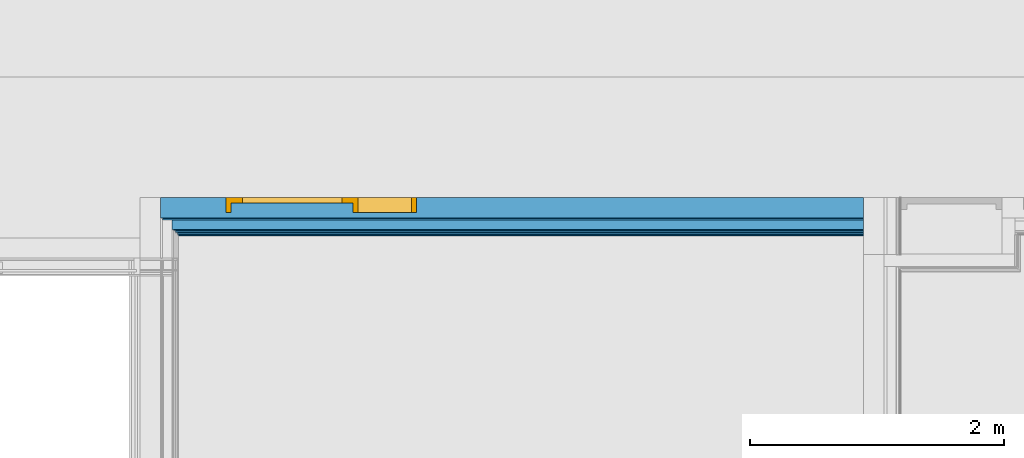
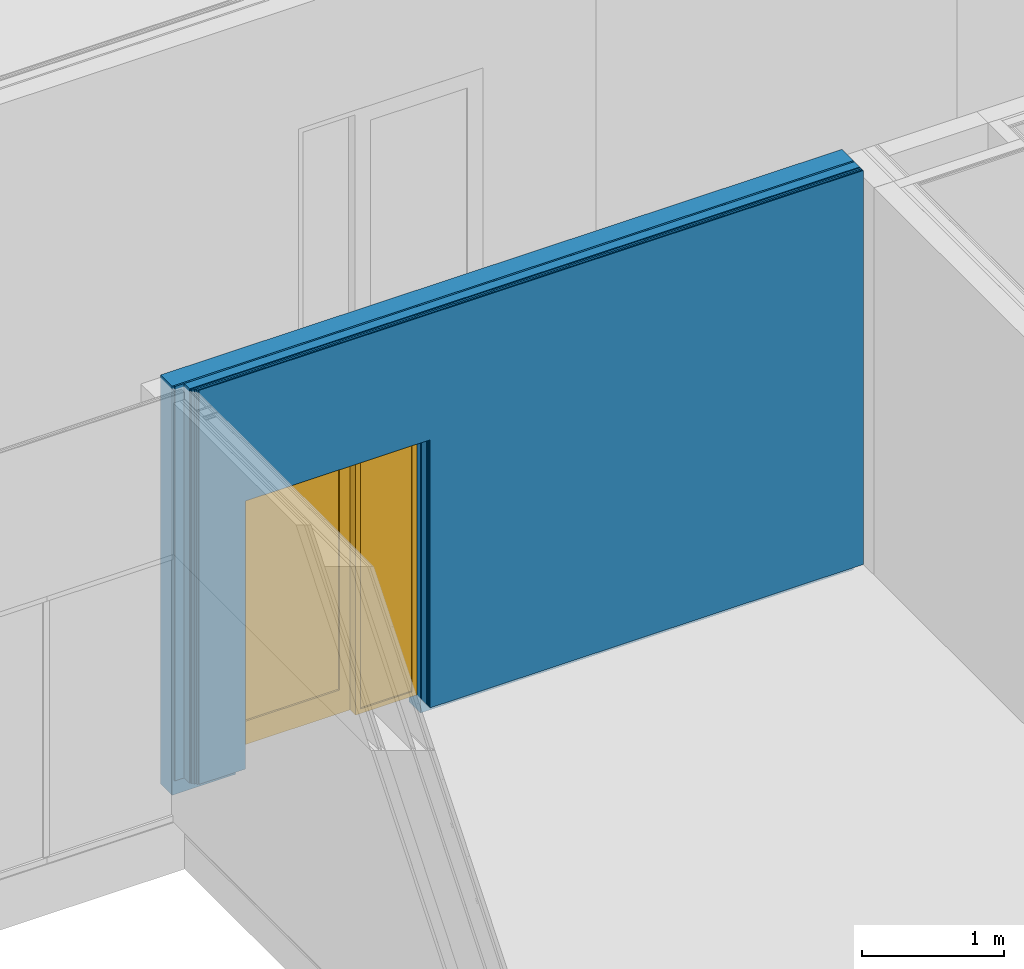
# One storey, part 23 of 139: 7 building element parts, 1 door, 1 opening, 1 element without a shape of its own.
"""IFC2X3 building model written with IfcOpenShell, lengths in millimetres."""

from ifc_helpers import new_model, entity, si_unit, converted_unit, derived_unit, money_unit, direction, frame, origin_with_axes, place, context, subcontext, project, spatial, open_shell, faceted_brep, surface_model, source, transform, mapped, material, type_object, element, fill, aggregate, save


model = new_model("IFC2X3")

# Units and contexts
model_context = context("Model", 3, precision=0.01, world=origin_with_axes(), true_north=direction((0.0, 1.0)))
body_context = subcontext(model_context, "Body", "Model", "MODEL_VIEW")
ifc_project = project(units=[si_unit("LENGTHUNIT", "METRE", prefix="MILLI"), si_unit("AREAUNIT", "SQUARE_METRE"), si_unit("VOLUMEUNIT", "CUBIC_METRE"), converted_unit("PLANEANGLEUNIT", "DEGREE", entity("IfcPlaneAngleMeasure", 0.0174532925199), si_unit("PLANEANGLEUNIT", "RADIAN"), dimensions=[0, 0, 0, 0, 0, 0, 0]), money_unit("EUR"), converted_unit("TIMEUNIT", "Year", entity("IfcTimeMeasure", 31556926.0), si_unit("TIMEUNIT", "SECOND"), dimensions=[0, 0, 1, 0, 0, 0, 0]), si_unit("MASSUNIT", "GRAM", prefix="KILO"), si_unit("THERMODYNAMICTEMPERATUREUNIT", "DEGREE_CELSIUS"), si_unit("LUMINOUSINTENSITYUNIT", "LUMEN"), si_unit("ENERGYUNIT", "JOULE", prefix="MEGA"), derived_unit("THERMALCONDUCTANCEUNIT", [(si_unit("POWERUNIT", "WATT"), 1), (si_unit("LENGTHUNIT", "METRE"), -1), (si_unit("THERMODYNAMICTEMPERATUREUNIT", "KELVIN"), -1)]), derived_unit("SPECIFICHEATCAPACITYUNIT", [(si_unit("ENERGYUNIT", "JOULE"), 1), (si_unit("MASSUNIT", "GRAM", prefix="KILO"), -1), (si_unit("THERMODYNAMICTEMPERATUREUNIT", "KELVIN"), -1)]), derived_unit("MASSDENSITYUNIT", [(si_unit("MASSUNIT", "GRAM", prefix="KILO"), 1), (si_unit("VOLUMEUNIT", "CUBIC_METRE"), -1)])], contexts=[model_context])

# Site, building, storey
site_placement = place(None, origin_with_axes())
site = spatial("IfcSite", under=ifc_project, at=site_placement, Name="Kolde pst 67a", CompositionType="ELEMENT")
building_placement = place(site_placement, origin_with_axes())
building = spatial("IfcBuilding", under=site, at=building_placement, Name="Riigigümnaasium", CompositionType="ELEMENT")
storey_placement = place(building_placement, frame((0.0, 0.0, 4600.0), z_axis=(0.0, 0.0, 1.0), x_axis=(1.0, 0.0, 0.0)))
storey = spatial("IfcBuildingStorey", under=building, at=storey_placement, Name="2. korrus", CompositionType="ELEMENT", Elevation=4600.0)

# Door
door_style = type_object("IfcDoorStyle", Name="Door with Sidelight on Side 2 25", ConstructionType="NOTDEFINED", OperationType="SINGLE_SWING_LEFT", ParameterTakesPrecedence=False, Sizeable=False)
shared_shape = source(origin_with_axes(), body_context, "Body", "SurfaceModel", [
    faceted_brep([(750.0, 0.0, 0.0), (750.0, -115.0, 0.0), (710.0, -115.0, 0.0), (710.0, 0.0, 0.0), (750.0, 0.0, 2260.0), (750.0, -115.0, 2260.0), (710.0, -115.0, 2260.0), (710.0, -115.0, 40.0), (710.0, 0.0, 40.0), (710.0, 0.0, 2260.0)], [[[0, 1, 2, 3]], [[4, 5, 1, 0]], [[1, 5, 6, 7, 2]], [[3, 2, 7, 8]], [[0, 3, 8, 9, 4]], [[9, 6, 5, 4]], [[8, 7, 6, 9]]]),
    faceted_brep([(250.0, -40.0, 0.0), (250.0, -115.0, 0.0), (250.0, -115.0, 2260.0), (250.0, -40.0, 2260.0), (262.0, -40.0, 0.0), (262.0, 0.0, 0.0), (290.0, 0.0, 0.0), (290.0, -115.0, 0.0), (290.0, -115.0, 40.0), (290.0, -115.0, 2260.0), (262.0, -40.0, 2260.0), (290.0, 0.0, 2260.0), (262.0, 0.0, 2260.0), (290.0, 0.0, 40.0)], [[[0, 1, 2, 3]], [[4, 5, 6, 7, 1, 0]], [[7, 8, 9, 2, 1]], [[10, 3, 2, 9, 11, 12]], [[10, 4, 0, 3]], [[12, 5, 4, 10]], [[12, 11, 13, 6, 5]], [[6, 13, 8, 7]], [[13, 11, 9, 8]]]),
    faceted_brep([(710.0, 0.0, 40.0), (710.0, -115.0, 40.0), (710.0, -115.0, 0.0), (710.0, 0.0, 0.0), (290.0, 0.0, 40.0), (290.0, -115.0, 40.0), (290.0, -115.0, 0.0), (290.0, 0.0, 0.0)], [[[0, 1, 2, 3]], [[4, 5, 1, 0]], [[1, 5, 6, 2]], [[3, 2, 6, 7]], [[0, 3, 7, 4]], [[7, 6, 5, 4]]]),
    faceted_brep([(-722.0, -40.0, 2260.0), (-722.0, 0.0, 2260.0), (-750.0, 0.0, 2260.0), (-750.0, -115.0, 2260.0), (-710.0, -115.0, 2260.0), (-710.0, -40.0, 2260.0), (-722.0, -40.0, 0.0), (-722.0, 0.0, 0.0), (-750.0, 0.0, 0.0), (-750.0, -115.0, 0.0), (-710.0, -115.0, 0.0), (-710.0, -40.0, 0.0)], [[[0, 1, 2, 3, 4, 5]], [[0, 6, 7, 1]], [[7, 8, 2, 1]], [[2, 8, 9, 3]], [[3, 9, 10, 4]], [[5, 4, 10, 11]], [[5, 11, 6, 0]], [[6, 11, 10, 9, 8, 7]]]),
    faceted_brep([(262.0, 0.0, 2272.0), (-722.0, 0.0, 2272.0), (-722.0, 0.0, 2260.0), (-750.0, 0.0, 2260.0), (-750.0, 0.0, 2300.0), (750.0, 0.0, 2300.0), (750.0, 0.0, 2260.0), (710.0, 0.0, 2260.0), (290.0, 0.0, 2260.0), (262.0, 0.0, 2260.0), (262.0, -40.0, 2272.0), (-722.0, -40.0, 2272.0), (-722.0, -40.0, 2260.0), (-710.0, -40.0, 2260.0), (-710.0, -115.0, 2260.0), (-750.0, -115.0, 2260.0), (-750.0, -115.0, 2300.0), (750.0, -115.0, 2300.0), (750.0, -115.0, 2260.0), (710.0, -115.0, 2260.0), (290.0, -115.0, 2260.0), (262.0, -40.0, 2260.0), (250.0, -115.0, 2260.0)], [[[0, 1, 2, 3, 4, 5, 6, 7, 8, 9]], [[0, 10, 11, 1]], [[1, 11, 12, 2]], [[12, 13, 14, 15, 3, 2]], [[4, 3, 15, 16]], [[5, 4, 16, 17]], [[6, 5, 17, 18]], [[7, 6, 18, 19]], [[8, 7, 19, 20]], [[21, 9, 8, 20, 22, 14, 13]], [[9, 21, 10, 0]], [[12, 11, 10, 21, 13]], [[14, 22, 20, 19, 18, 17, 16, 15]]]),
    faceted_brep([(-722.0, 0.0, 200.0), (-622.0, 0.0, 200.0), (-622.0, -40.0, 200.0), (-722.0, -40.0, 200.0), (-722.0, 0.0, 2172.0), (-622.0, 0.0, 2172.0), (-622.0, -40.0, 2172.0), (-722.0, -40.0, 2172.0)], [[[0, 1, 2, 3]], [[0, 4, 5, 1]], [[1, 5, 6, 2]], [[3, 2, 6, 7]], [[4, 0, 3, 7]], [[5, 4, 7, 6]]]),
    faceted_brep([(262.0, 0.0, 200.0), (262.0, 0.0, 2172.0), (262.0, -40.0, 2172.0), (262.0, -40.0, 200.0), (162.0, 0.0, 200.0), (162.0, 0.0, 2172.0), (162.0, -40.0, 2172.0), (162.0, -40.0, 200.0)], [[[0, 1, 2, 3]], [[0, 4, 5, 1]], [[1, 5, 6, 2]], [[3, 2, 6, 7]], [[4, 0, 3, 7]], [[5, 4, 7, 6]]]),
    faceted_brep([(-722.0, 0.0, 0.0), (262.0, 0.0, 0.0), (262.0, -40.0, 0.0), (-722.0, -40.0, 0.0), (-722.0, 0.0, 200.0), (-622.0, 0.0, 200.0), (162.0, 0.0, 200.0), (262.0, 0.0, 200.0), (262.0, -40.0, 200.0), (162.0, -40.0, 200.0), (-622.0, -40.0, 200.0), (-722.0, -40.0, 200.0)], [[[0, 1, 2, 3]], [[0, 4, 5, 6, 7, 1]], [[1, 7, 8, 2]], [[3, 2, 8, 9, 10, 11]], [[4, 0, 3, 11]], [[5, 4, 11, 10]], [[6, 5, 10, 9]], [[7, 6, 9, 8]]]),
    faceted_brep([(-722.0, 0.0, 2272.0), (-722.0, 0.0, 2172.0), (-722.0, -40.0, 2172.0), (-722.0, -40.0, 2272.0), (262.0, 0.0, 2272.0), (262.0, 0.0, 2172.0), (162.0, 0.0, 2172.0), (-622.0, 0.0, 2172.0), (-622.0, -40.0, 2172.0), (162.0, -40.0, 2172.0), (262.0, -40.0, 2172.0), (262.0, -40.0, 2272.0)], [[[0, 1, 2, 3]], [[0, 4, 5, 6, 7, 1]], [[1, 7, 8, 2]], [[3, 2, 8, 9, 10, 11]], [[4, 0, 3, 11]], [[5, 4, 11, 10]], [[6, 5, 10, 9]], [[7, 6, 9, 8]]]),
    surface_model("IfcShellBasedSurfaceModel", [(-622.0, -14.0, 200.0), (-622.0, -14.0, 2172.0), (162.0, -14.0, 2172.0), (162.0, -14.0, 200.0)], [open_shell([[[0, 1, 2, 3]]])]),
    surface_model("IfcShellBasedSurfaceModel", [(-622.0, -26.0, 200.0), (162.0, -26.0, 200.0), (162.0, -26.0, 2172.0), (-622.0, -26.0, 2172.0)], [open_shell([[[0, 1, 2, 3]]])]),
    surface_model("IfcShellBasedSurfaceModel", [(710.0, -91.0, 40.0), (290.0, -91.0, 40.0), (290.0, -91.0, 2260.0), (710.0, -91.0, 2260.0)], [open_shell([[[0, 1, 2, 3]]])]),
    surface_model("IfcShellBasedSurfaceModel", [(710.0, -103.0, 40.0), (710.0, -103.0, 2260.0), (290.0, -103.0, 2260.0), (290.0, -103.0, 40.0)], [open_shell([[[0, 1, 2, 3]]])]),
])
wall_placement = place(storey_placement, frame((18350.0035442, 55889.9806016, -410.0), z_axis=(0.0, 0.0, 1.0), x_axis=(0.999999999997, 2.38460351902e-06, 0.0)))
opening_placement = place(wall_placement, frame((1424.99934423, 0.0, 410.0), z_axis=(0.0, 0.0, 1.0), x_axis=(1.0, 0.0, 0.0)))
door_placement = place(opening_placement, frame((-750.0, 0.0, 0.0), z_axis=(0.0, 0.0, 1.0), x_axis=(1.0, 0.0, 0.0)))
door = element("IfcDoor", 1, at=door_placement, inside=storey, type_object=door_style, Name="Siseuks", ObjectType="DOOR", OverallHeight=2300.0, OverallWidth=1500.0, context=body_context, shape_type="MappedRepresentation", body=[
    mapped(shared_shape, transform((750.000715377, -0.00339805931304, 0.0))),
])

# Wall, opening
wall_type = type_object("IfcWallType", Name="SS-CLT-16/1_vill75+krohv 52 dB 300", PredefinedType="NOTDEFINED")
wall = element("IfcWall", 2, at=wall_placement, inside=storey, type_object=wall_type, Name="Sisesein")
opening = element("IfcOpeningElement", 3, at=opening_placement, cuts=wall, Name="Siseuks", context=body_context, shape_type="Brep", body=[
    faceted_brep([(-749.997853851, 600.001788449, 2300.0), (-749.997853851, 600.001788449, 0.0), (-749.999999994, -299.998211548, 0.0), (-749.999999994, -299.998211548, 2300.0), (750.002146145, 599.998211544, 2300.0), (750.002146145, 599.998211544, 0.0), (750.000000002, -300.001788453, 0.0), (750.000000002, -300.001788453, 2300.0)], [[[0, 1, 2, 3]], [[0, 4, 5, 1]], [[1, 5, 6, 2]], [[3, 2, 6, 7]], [[4, 0, 3, 7]], [[5, 4, 7, 6]]]),
])

fill(opening, door)

# Building element part
ifc_material_1 = material(Name="_KANDETARIND - CLT ristkihtliimpuit vastavalt EK osale, CLT paigaldusvuugid teibitakse ROTHOBLAAS teibiga")
building_element_part_1_placement = place(wall_placement, origin_with_axes())
building_element_part_1 = element("IfcBuildingElementPart", 4, at=building_element_part_1_placement, material=ifc_material_1, Name="_KANDETARIND - CLT ristkihtliimpuit vastavalt EK osale, CLT paigaldusvuugid teibitakse ROTHOBLAAS teibiga", context=body_context, shape_type="Brep", body=[
    faceted_brep([(675.000059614, -0.0016245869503, 2710.0), (675.000059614, -0.00160960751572, 410.0), (674.999344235, -0.0016309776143, 280.0), (159.999999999, -0.000405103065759, 280.0), (160.0, -0.000382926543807, 3790.0), (5689.99918997, -0.0135683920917, 3790.0), (5689.99918996, -0.0135683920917, 3750.0), (5689.99918996, -0.0135683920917, 280.0), (2174.99934423, -0.00520149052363, 280.0), (2175.00005961, -0.00518651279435, 410.0), (2175.00005961, -0.00520149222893, 2710.0), (674.999678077, -160.001609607, 2710.0), (674.999678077, -160.001609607, 410.0), (674.999344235, -160.001609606, 280.0), (159.999618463, -160.000381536, 280.0), (159.999618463, -160.000381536, 3790.0), (5689.99880844, -160.013568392, 3790.0), (5689.99880844, -160.013568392, 280.0), (2174.99934423, -160.005186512, 280.0), (2174.99967807, -160.005186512, 410.0), (2174.99967807, -160.005186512, 2710.0)], [[[0, 1, 2, 3, 4, 5, 6, 7, 8, 9, 10]], [[1, 0, 11, 12]], [[1, 12, 13, 2]], [[13, 14, 3, 2]], [[14, 15, 4, 3]], [[4, 15, 16, 5]], [[6, 5, 16, 17, 7]], [[8, 7, 17, 18]], [[19, 9, 8, 18]], [[10, 9, 19, 20]], [[0, 10, 20, 11]], [[20, 19, 18, 17, 16, 15, 14, 13, 12, 11]]]),
])

ifc_material_2 = material(Name="_ÕHKVAHE")
building_element_part_2_placement = place(wall_placement, origin_with_axes())
building_element_part_2 = element("IfcBuildingElementPart", 5, at=building_element_part_2_placement, material=ifc_material_2, Name="_ÕHKVAHE", context=body_context, shape_type="Brep", body=[
    faceted_brep([(674.999678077, -160.001609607, 2710.0), (674.999678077, -160.001609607, 410.0), (674.999344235, -160.001609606, 407.0), (174.999618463, -160.000417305, 407.0), (174.999618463, -160.000417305, 3790.0), (5689.99880844, -160.013568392, 3790.0), (5689.99880844, -160.013568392, 407.0), (2174.99934423, -160.005186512, 407.0), (2174.99967807, -160.005186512, 410.0), (2174.99967807, -160.005186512, 2710.0), (674.999642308, -175.001609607, 2710.0), (674.999642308, -175.001609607, 410.0), (674.999344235, -175.001609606, 407.0), (174.999582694, -175.000417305, 407.0), (174.999582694, -175.000417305, 3790.0), (5689.99877267, -175.013568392, 3790.0), (5689.99877267, -175.013568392, 407.0), (2174.99934423, -175.005186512, 407.0), (2174.9996423, -175.005186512, 410.0), (2174.9996423, -175.005186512, 2710.0)], [[[0, 1, 2, 3, 4, 5, 6, 7, 8, 9]], [[1, 0, 10, 11]], [[1, 11, 12, 2]], [[12, 13, 3, 2]], [[13, 14, 4, 3]], [[4, 14, 15, 5]], [[6, 5, 15, 16]], [[7, 6, 16, 17]], [[18, 8, 7, 17]], [[9, 8, 18, 19]], [[0, 9, 19, 10]], [[19, 18, 17, 16, 15, 14, 13, 12, 11, 10]]]),
])

ifc_material_3 = material(Name="_KARKASS - metallkarkass CW 75/50/06 ja UW 75/40/06, samm 600, vahel mineraalvill, helineeldetegur αw = 1.0,  ISOVER ACOUSTIC 75mm või samaväärne")
building_element_part_3_placement = place(wall_placement, origin_with_axes())
building_element_part_3 = element("IfcBuildingElementPart", 6, at=building_element_part_3_placement, material=ifc_material_3, Name="_KARKASS - metallkarkass CW 75/50/06 ja UW 75/40/06, samm 600, vahel mineraalvill, helineeldetegur αw = 1.0,  ISOVER ACOUSTIC 75mm või samaväärne", context=body_context, shape_type="Brep", body=[
    faceted_brep([(674.999642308, -175.001609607, 2710.0), (674.999642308, -175.001609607, 410.0), (674.999344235, -175.001609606, 407.0), (249.999582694, -175.00059615, 407.0), (249.999582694, -175.00059615, 3790.0), (5689.99877267, -175.013568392, 3790.0), (5689.99877267, -175.013568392, 407.0), (2174.99934423, -175.005186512, 407.0), (2174.9996423, -175.005186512, 410.0), (2174.9996423, -175.005186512, 2710.0), (674.999463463, -250.001609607, 2710.0), (674.999463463, -250.001609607, 410.0), (674.999344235, -250.001609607, 407.0), (249.999403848, -250.00059615, 407.0), (249.999403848, -250.00059615, 3790.0), (5689.99859382, -250.013568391, 3790.0), (5689.99859382, -250.013568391, 407.0), (2174.99934423, -250.005186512, 407.0), (2174.99946346, -250.005186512, 410.0), (2174.99946346, -250.005186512, 2710.0)], [[[0, 1, 2, 3, 4, 5, 6, 7, 8, 9]], [[1, 0, 10, 11]], [[1, 11, 12, 2]], [[12, 13, 3, 2]], [[13, 14, 4, 3]], [[4, 14, 15, 5]], [[6, 5, 15, 16]], [[7, 6, 16, 17]], [[18, 8, 7, 17]], [[9, 8, 18, 19]], [[0, 9, 19, 10]], [[19, 18, 17, 16, 15, 14, 13, 12, 11, 10]]]),
])

ifc_material_4 = material(Name="_PLAATMATERJAL - OSB3 plaat")
building_element_part_4_placement = place(wall_placement, origin_with_axes())
building_element_part_4 = element("IfcBuildingElementPart", 7, at=building_element_part_4_placement, material=ifc_material_4, Name="_PLAATMATERJAL - OSB3 plaat", context=body_context, shape_type="Brep", body=[
    faceted_brep([(674.999463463, -250.001609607, 2710.0), (674.999463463, -250.001609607, 410.0), (674.999344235, -250.001609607, 407.0), (259.999403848, -250.000619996, 407.0), (259.999403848, -250.000619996, 3790.0), (5689.99859382, -250.013568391, 3790.0), (5689.99859382, -250.013568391, 407.0), (2174.99934423, -250.005186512, 407.0), (2174.99946346, -250.005186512, 410.0), (2174.99946346, -250.005186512, 2710.0), (674.999439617, -260.001609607, 2710.0), (674.999439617, -260.001609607, 410.0), (674.999344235, -260.001609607, 407.0), (259.999380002, -260.000619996, 407.0), (259.999380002, -260.000619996, 3790.0), (5689.99856998, -260.013568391, 3790.0), (5689.99856998, -260.013568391, 407.0), (2174.99934423, -260.005186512, 407.0), (2174.99943961, -260.005186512, 410.0), (2174.99943961, -260.005186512, 2710.0)], [[[0, 1, 2, 3, 4, 5, 6, 7, 8, 9]], [[1, 0, 10, 11]], [[1, 11, 12, 2]], [[12, 13, 3, 2]], [[13, 14, 4, 3]], [[4, 14, 15, 5]], [[6, 5, 15, 16]], [[7, 6, 16, 17]], [[18, 8, 7, 17]], [[9, 8, 18, 19]], [[0, 9, 19, 10]], [[19, 18, 17, 16, 15, 14, 13, 12, 11, 10]]]),
])

ifc_material_5 = material(Name="_PLAATMATERJAL - tuletõkkekipsplaat, Knauf Red GKF või samaväärne")
building_element_part_5_placement = place(wall_placement, origin_with_axes())
building_element_part_5 = element("IfcBuildingElementPart", 8, at=building_element_part_5_placement, material=ifc_material_5, Name="_PLAATMATERJAL - tuletõkkekipsplaat, Knauf Red GKF või samaväärne", context=body_context, shape_type="Brep", body=[
    faceted_brep([(674.999439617, -260.001609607, 2710.0), (674.999439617, -260.001609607, 410.0), (674.999344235, -260.001609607, 407.0), (274.999380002, -260.000655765, 407.0), (274.999380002, -260.000655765, 3790.0), (5689.99856998, -260.013568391, 3790.0), (5689.99856998, -260.013568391, 407.0), (2174.99934423, -260.005186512, 407.0), (2174.99943961, -260.005186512, 410.0), (2174.99943961, -260.005186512, 2710.0), (674.999403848, -275.001609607, 2710.0), (674.999403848, -275.001609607, 410.0), (674.999344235, -275.001609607, 407.0), (274.999344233, -275.000655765, 407.0), (274.999344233, -275.000655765, 3790.0), (5689.99853421, -275.013568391, 3790.0), (5689.99853421, -275.013568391, 407.0), (2174.99934423, -275.005186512, 407.0), (2174.99940384, -275.005186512, 410.0), (2174.99940384, -275.005186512, 2710.0)], [[[0, 1, 2, 3, 4, 5, 6, 7, 8, 9]], [[1, 0, 10, 11]], [[1, 11, 12, 2]], [[12, 13, 3, 2]], [[13, 14, 4, 3]], [[4, 14, 15, 5]], [[6, 5, 15, 16]], [[7, 6, 16, 17]], [[18, 8, 7, 17]], [[9, 8, 18, 19]], [[0, 9, 19, 10]], [[19, 18, 17, 16, 15, 14, 13, 12, 11, 10]]]),
])

building_element_part_6_placement = place(wall_placement, origin_with_axes())
building_element_part_6 = element("IfcBuildingElementPart", 9, at=building_element_part_6_placement, material=ifc_material_5, Name="_PLAATMATERJAL - tuletõkkekipsplaat, Knauf Red GKF või samaväärne", context=body_context, shape_type="Brep", body=[
    faceted_brep([(674.999403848, -275.001609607, 2710.0), (674.999403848, -275.001609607, 410.0), (674.999344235, -275.001609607, 407.0), (289.999344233, -275.000691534, 407.0), (289.999344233, -275.000691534, 3790.0), (5689.99853421, -275.013568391, 3790.0), (5689.99853421, -275.013568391, 407.0), (2174.99934423, -275.005186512, 407.0), (2174.99940384, -275.005186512, 410.0), (2174.99940384, -275.005186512, 2710.0), (674.999368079, -290.001609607, 2710.0), (674.999368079, -290.001609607, 410.0), (674.999344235, -290.001609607, 407.0), (289.999308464, -290.000691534, 407.0), (289.999308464, -290.000691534, 3790.0), (5689.99849844, -290.013568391, 3790.0), (5689.99849844, -290.013568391, 407.0), (2174.99934423, -290.005186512, 407.0), (2174.99936807, -290.005186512, 410.0), (2174.99936807, -290.005186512, 2710.0)], [[[0, 1, 2, 3, 4, 5, 6, 7, 8, 9]], [[1, 0, 10, 11]], [[1, 11, 12, 2]], [[12, 13, 3, 2]], [[13, 14, 4, 3]], [[4, 14, 15, 5]], [[6, 5, 15, 16]], [[7, 6, 16, 17]], [[18, 8, 7, 17]], [[9, 8, 18, 19]], [[0, 9, 19, 10]], [[19, 18, 17, 16, 15, 14, 13, 12, 11, 10]]]),
])

ifc_material_6 = material(Name="_VIIMISTLUSKIHT - viimistlus vastavalt SA osale")
building_element_part_7_placement = place(wall_placement, origin_with_axes())
building_element_part_7 = element("IfcBuildingElementPart", 10, at=building_element_part_7_placement, material=ifc_material_6, Name="_VIIMISTLUSKIHT - viimistlus vastavalt SA osale", context=body_context, shape_type="Brep", body=[
    faceted_brep([(674.999368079, -290.001609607, 2710.0), (674.999368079, -290.001609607, 410.0), (299.999308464, -290.00071538, 410.0), (299.999308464, -290.00071538, 3790.0), (5689.99849844, -290.013568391, 3790.0), (5689.99849844, -290.013568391, 410.0), (2174.99936807, -290.005186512, 410.0), (2174.99936807, -290.005186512, 2710.0), (674.999344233, -300.001609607, 2710.0), (674.999344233, -300.001609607, 410.0), (299.999284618, -300.00071538, 410.0), (299.999284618, -300.00071538, 3790.0), (5689.99847459, -300.013568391, 3790.0), (5689.99847457, -300.013568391, 3750.0), (5689.99847457, -300.013568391, 410.0), (2174.99934423, -300.005186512, 410.0), (2174.99934423, -300.005186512, 2710.0)], [[[0, 1, 2, 3, 4, 5, 6, 7]], [[1, 0, 8, 9]], [[1, 9, 10, 2]], [[10, 11, 3, 2]], [[3, 11, 12, 4]], [[4, 12, 13, 14, 5]], [[15, 6, 5, 14]], [[7, 6, 15, 16]], [[0, 7, 16, 8]], [[16, 15, 14, 13, 12, 11, 10, 9, 8]]]),
])

aggregate(wall, [building_element_part_1, building_element_part_2, building_element_part_3, building_element_part_4, building_element_part_5, building_element_part_6, building_element_part_7])

save(model, "model.ifc")
